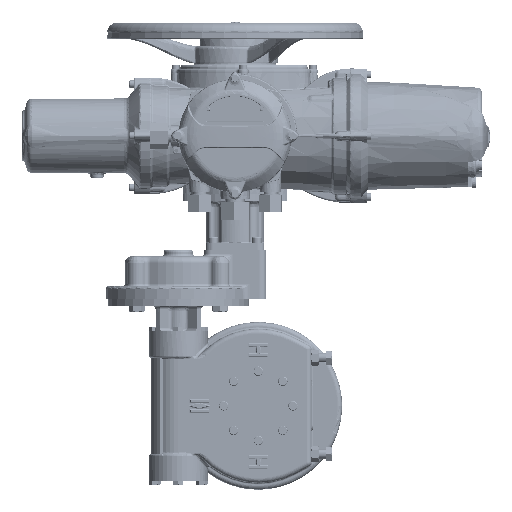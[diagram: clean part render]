
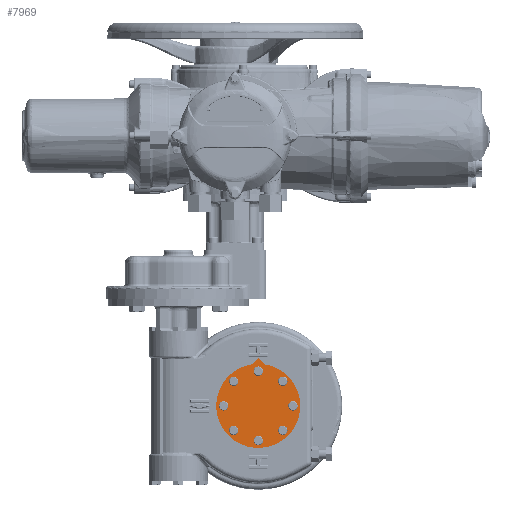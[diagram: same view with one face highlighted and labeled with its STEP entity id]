
A CAD part, front view. The second image highlights one B-rep face of the part: STEP entity #7969.
In plain terms, the highlighted planar face has unit normal (0, -1, 0).
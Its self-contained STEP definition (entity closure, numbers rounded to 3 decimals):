
#7969 = ADVANCED_FACE( '', ( #23008, #23009, #23010, #23011, #23012, #23013, #23014, #23015, #23016 ), #23017, .T. );
#23008 = FACE_BOUND( '', #53065, .T. );
#23009 = FACE_BOUND( '', #53066, .T. );
#23010 = FACE_BOUND( '', #53067, .T. );
#23011 = FACE_BOUND( '', #53068, .T. );
#23012 = FACE_BOUND( '', #53069, .T. );
#23013 = FACE_BOUND( '', #53070, .T. );
#23014 = FACE_BOUND( '', #53071, .T. );
#23015 = FACE_BOUND( '', #53072, .T. );
#23016 = FACE_OUTER_BOUND( '', #53073, .T. );
#23017 = PLANE( '', #53074 );
#53065 = EDGE_LOOP( '', ( #347622 ) );
#53066 = EDGE_LOOP( '', ( #347623 ) );
#53067 = EDGE_LOOP( '', ( #347624 ) );
#53068 = EDGE_LOOP( '', ( #347625 ) );
#53069 = EDGE_LOOP( '', ( #347626 ) );
#53070 = EDGE_LOOP( '', ( #347627 ) );
#53071 = EDGE_LOOP( '', ( #347628 ) );
#53072 = EDGE_LOOP( '', ( #347629 ) );
#53073 = EDGE_LOOP( '', ( #347630, #347631, #347632 ) );
#53074 = AXIS2_PLACEMENT_3D( '', #347633, #347634, #347635 );
#347622 = ORIENTED_EDGE( '', *, *, #407268, .F. );
#347623 = ORIENTED_EDGE( '', *, *, #407269, .F. );
#347624 = ORIENTED_EDGE( '', *, *, #407270, .F. );
#347625 = ORIENTED_EDGE( '', *, *, #407271, .F. );
#347626 = ORIENTED_EDGE( '', *, *, #407272, .F. );
#347627 = ORIENTED_EDGE( '', *, *, #407273, .F. );
#347628 = ORIENTED_EDGE( '', *, *, #407274, .F. );
#347629 = ORIENTED_EDGE( '', *, *, #407275, .F. );
#347630 = ORIENTED_EDGE( '', *, *, #407276, .T. );
#347631 = ORIENTED_EDGE( '', *, *, #406739, .T. );
#347632 = ORIENTED_EDGE( '', *, *, #407277, .T. );
#347633 = CARTESIAN_POINT( '', ( 39.495, -50.655, -459.165 ) );
#347634 = DIRECTION( '', ( 0., -1., 0. ) );
#347635 = DIRECTION( '', ( 0., 0., 1. ) );
#406739 = EDGE_CURVE( '', #432000, #431998, #432001, .T. );
#407268 = EDGE_CURVE( '', #432952, #432952, #432953, .T. );
#407269 = EDGE_CURVE( '', #432954, #432954, #432955, .T. );
#407270 = EDGE_CURVE( '', #432956, #432956, #432957, .T. );
#407271 = EDGE_CURVE( '', #432958, #432958, #432959, .T. );
#407272 = EDGE_CURVE( '', #432960, #432960, #432961, .T. );
#407273 = EDGE_CURVE( '', #432962, #432962, #432963, .T. );
#407274 = EDGE_CURVE( '', #432964, #432964, #432965, .T. );
#407275 = EDGE_CURVE( '', #432966, #432966, #432967, .T. );
#407276 = EDGE_CURVE( '', #432968, #432000, #432969, .T. );
#407277 = EDGE_CURVE( '', #431998, #432968, #432970, .T. );
#431998 = VERTEX_POINT( '', #474198 );
#432000 = VERTEX_POINT( '', #474201 );
#432001 = LINE( '', #474202, #474203 );
#432952 = VERTEX_POINT( '', #478176 );
#432953 = CIRCLE( '', #478177, 8. );
#432954 = VERTEX_POINT( '', #478178 );
#432955 = CIRCLE( '', #478179, 8. );
#432956 = VERTEX_POINT( '', #478180 );
#432957 = CIRCLE( '', #478181, 8. );
#432958 = VERTEX_POINT( '', #478182 );
#432959 = CIRCLE( '', #478183, 8. );
#432960 = VERTEX_POINT( '', #478184 );
#432961 = CIRCLE( '', #478185, 8. );
#432962 = VERTEX_POINT( '', #478186 );
#432963 = CIRCLE( '', #478187, 8. );
#432964 = VERTEX_POINT( '', #478188 );
#432965 = CIRCLE( '', #478189, 8. );
#432966 = VERTEX_POINT( '', #478190 );
#432967 = CIRCLE( '', #478191, 8. );
#432968 = VERTEX_POINT( '', #478192 );
#432969 = CIRCLE( '', #478193, 71.5 );
#432970 = LINE( '', #478194, #478195 );
#474198 = CARTESIAN_POINT( '', ( 39.495, -50.655, -377.665 ) );
#474201 = CARTESIAN_POINT( '', ( 50.319, -50.655, -388.489 ) );
#474202 = CARTESIAN_POINT( '', ( 50.319, -50.655, -388.489 ) );
#474203 = VECTOR( '', #638963, 1000. );
#478176 = CARTESIAN_POINT( '', ( 5.776, -50.655, -417.446 ) );
#478177 = AXIS2_PLACEMENT_3D( '', #639444, #639445, #639446 );
#478178 = CARTESIAN_POINT( '', ( 89.214, -50.655, -417.446 ) );
#478179 = AXIS2_PLACEMENT_3D( '', #639447, #639448, #639449 );
#478180 = CARTESIAN_POINT( '', ( 89.214, -50.655, -500.884 ) );
#478181 = AXIS2_PLACEMENT_3D( '', #639450, #639451, #639452 );
#478182 = CARTESIAN_POINT( '', ( 5.776, -50.655, -500.884 ) );
#478183 = AXIS2_PLACEMENT_3D( '', #639453, #639454, #639455 );
#478184 = CARTESIAN_POINT( '', ( 47.495, -50.655, -518.165 ) );
#478185 = AXIS2_PLACEMENT_3D( '', #639456, #639457, #639458 );
#478186 = CARTESIAN_POINT( '', ( 106.495, -50.655, -459.165 ) );
#478187 = AXIS2_PLACEMENT_3D( '', #639459, #639460, #639461 );
#478188 = CARTESIAN_POINT( '', ( 47.495, -50.655, -400.165 ) );
#478189 = AXIS2_PLACEMENT_3D( '', #639462, #639463, #639464 );
#478190 = CARTESIAN_POINT( '', ( -11.505, -50.655, -459.165 ) );
#478191 = AXIS2_PLACEMENT_3D( '', #639465, #639466, #639467 );
#478192 = CARTESIAN_POINT( '', ( 28.671, -50.655, -388.489 ) );
#478193 = AXIS2_PLACEMENT_3D( '', #639468, #639469, #639470 );
#478194 = CARTESIAN_POINT( '', ( 39.495, -50.655, -377.665 ) );
#478195 = VECTOR( '', #639471, 1000. );
#638963 = DIRECTION( '', ( -0.707, 0., 0.707 ) );
#639444 = CARTESIAN_POINT( '', ( -2.224, -50.655, -417.446 ) );
#639445 = DIRECTION( '', ( 0., -1., 0. ) );
#639446 = DIRECTION( '', ( 1., 0., 0. ) );
#639447 = CARTESIAN_POINT( '', ( 81.214, -50.655, -417.446 ) );
#639448 = DIRECTION( '', ( 0., -1., 0. ) );
#639449 = DIRECTION( '', ( 1., 0., 0. ) );
#639450 = CARTESIAN_POINT( '', ( 81.214, -50.655, -500.884 ) );
#639451 = DIRECTION( '', ( 0., -1., 0. ) );
#639452 = DIRECTION( '', ( 1., 0., 0. ) );
#639453 = CARTESIAN_POINT( '', ( -2.224, -50.655, -500.884 ) );
#639454 = DIRECTION( '', ( 0., -1., 0. ) );
#639455 = DIRECTION( '', ( 1., 0., 0. ) );
#639456 = CARTESIAN_POINT( '', ( 39.495, -50.655, -518.165 ) );
#639457 = DIRECTION( '', ( 0., -1., 0. ) );
#639458 = DIRECTION( '', ( 1., 0., 0. ) );
#639459 = CARTESIAN_POINT( '', ( 98.495, -50.655, -459.165 ) );
#639460 = DIRECTION( '', ( 0., -1., 0. ) );
#639461 = DIRECTION( '', ( 1., 0., 0. ) );
#639462 = CARTESIAN_POINT( '', ( 39.495, -50.655, -400.165 ) );
#639463 = DIRECTION( '', ( 0., -1., 0. ) );
#639464 = DIRECTION( '', ( 1., 0., 0. ) );
#639465 = CARTESIAN_POINT( '', ( -19.505, -50.655, -459.165 ) );
#639466 = DIRECTION( '', ( 0., -1., 0. ) );
#639467 = DIRECTION( '', ( 1., 0., 0. ) );
#639468 = CARTESIAN_POINT( '', ( 39.495, -50.655, -459.165 ) );
#639469 = DIRECTION( '', ( 0., -1., 0. ) );
#639470 = DIRECTION( '', ( 0., 0., 1. ) );
#639471 = DIRECTION( '', ( -0.707, 0., -0.707 ) );
